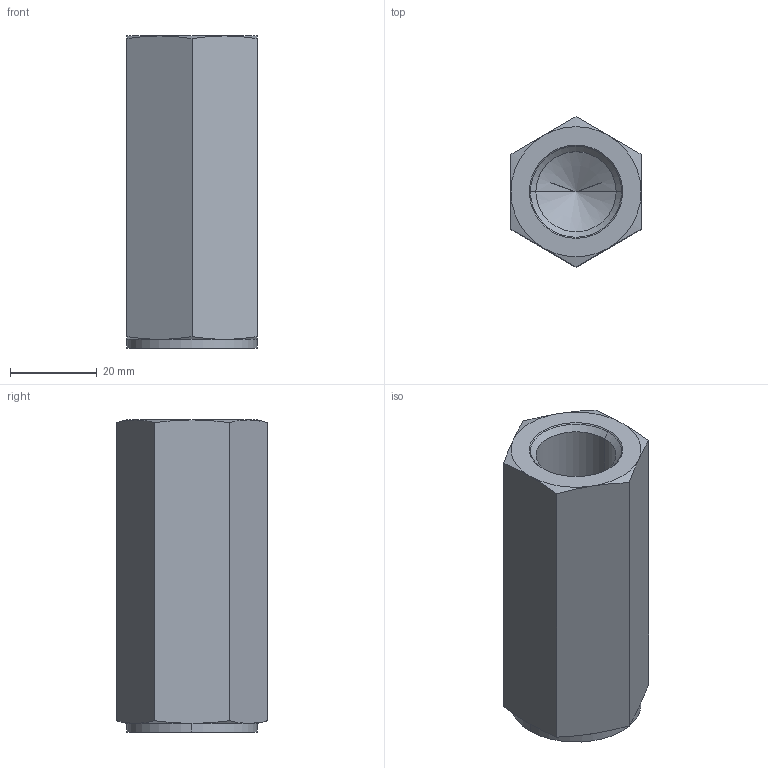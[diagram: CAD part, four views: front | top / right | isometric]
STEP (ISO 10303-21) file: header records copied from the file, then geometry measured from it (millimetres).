
FILE_DESCRIPTION((''),'2;1');
FILE_NAME('VJ3_10_G1','2021-06-02T',('l.soukupova'),(''),'PRO/ENGINEER BY PARAMETRIC TECHNOLOGY CORPORATION, 2015440','PRO/ENGINEER BY PARAMETRIC TECHNOLOGY CORPORATION, 2015440','');
FILE_SCHEMA(('AUTOMOTIVE_DESIGN { 1 0 10303 214 1 1 1 1 }'));
Length unit declared in the file: millimetre
Products named in the file (1): VJ3_10_G1
Bounding box: 30 x 34.64 x 72 mm (x, y, z)
Volume: 45712 mm3; surface area: 12914 mm2
Topology: 1 solids, 3 shells, 40 faces, 114 edges, 87 vertices
Faces by surface type: cone 20, plane 10, cylinder 10
Entity records: 1946 total; most frequent: CARTESIAN_POINT 501, DIRECTION 212, ORIENTED_EDGE 164, PRESENTATION_STYLE_ASSIGNMENT 122, STYLED_ITEM 122, CURVE_STYLE 119, EDGE_CURVE 86, AXIS2_PLACEMENT_3D 83
